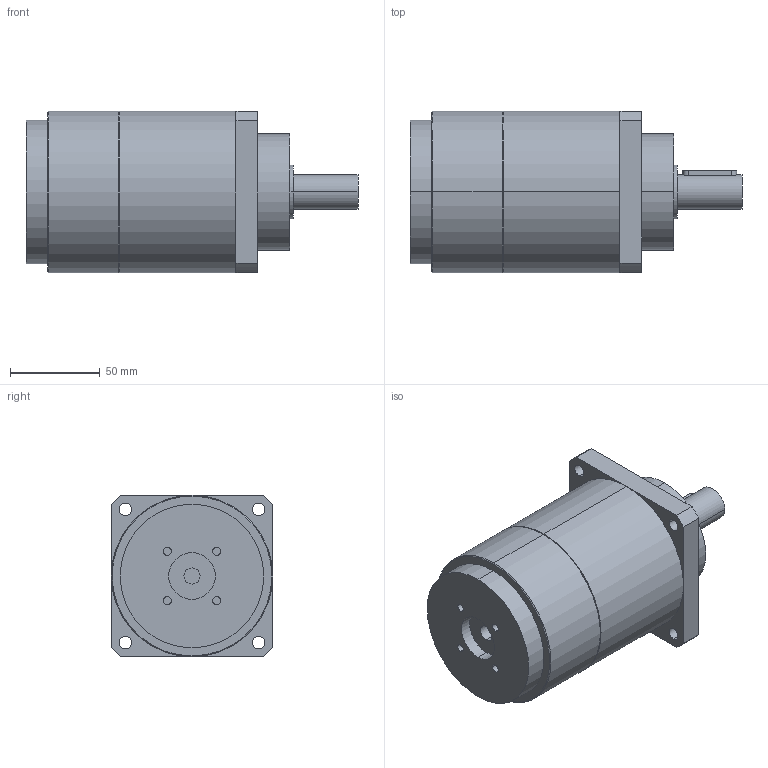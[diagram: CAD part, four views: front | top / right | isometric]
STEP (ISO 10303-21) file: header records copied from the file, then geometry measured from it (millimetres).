
FILE_DESCRIPTION(('CoCreate Modeling STEP Export'),'2;1');
FILE_NAME('GPT90_ig-9-12-16-20-25-28-35-40-50-70-100_19_B5T_19_P09.stp','2015-02-04T11:32:52',(''),(''),'CoCreate Modeling STEP processor for AP214 (Solid Model)','CoCreate Modeling 16.00C 25-Feb-2009 (C) Parametric Technology GmbH','');
FILE_SCHEMA(('AUTOMOTIVE_DESIGN { 1 0 10303 214 1 1 1 1 }'));
Length unit declared in the file: millimetre
Products named in the file (2): GPT90_ig-9-12-16-20-25-28-35-40-50-70-100_19_B5T_19_P09
Assembly tree (1 placements, depth 2):
  GPT90_ig-9-12-16-20-25-28-35-40-50-70-100_19_B5T_19_P09
    GPT90_ig-9-12-16-20-25-28-35-40-50-70-100_19_B5T_19_P09
Bounding box: 185 x 90 x 90 mm (x, y, z)
Volume: 880650.5 mm3; surface area: 64050.8 mm2
Topology: 1 solids, 1 shells, 72 faces, 182 edges, 125 vertices
Faces by surface type: cylinder 42, plane 26, cone 4
Entity records: 2276 total; most frequent: CARTESIAN_POINT 688, ORIENTED_EDGE 364, DIRECTION 270, EDGE_CURVE 182, VERTEX_POINT 125, AXIS2_PLACEMENT_3D 101, EDGE_LOOP 93, FACE_OUTER_BOUND 72
